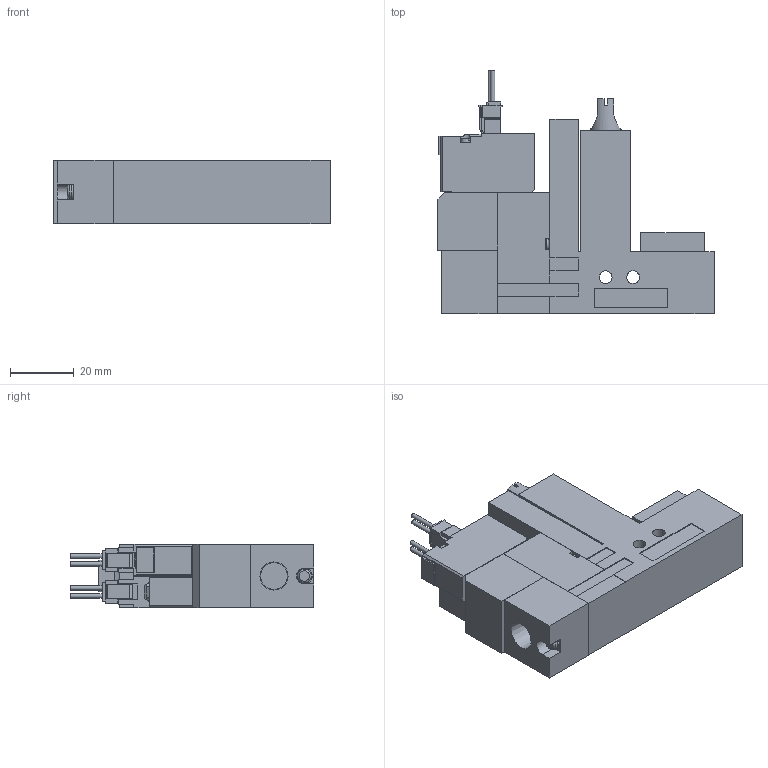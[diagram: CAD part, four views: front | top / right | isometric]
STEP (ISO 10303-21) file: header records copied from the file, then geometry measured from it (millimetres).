
FILE_DESCRIPTION(('STEP AP203'),'1');
FILE_NAME('ZL5ALR.stp','2025-02-16T23:43:21',(' '),(' '),'Spatial InterOp 3D',' ',' ');
FILE_SCHEMA(('CONFIG_CONTROL_DESIGN'));
Length unit declared in the file: millimetre
Products named in the file (5): BMC22S※※※※ZL5ALR; Solenoid valve A; Pressure sensor ZL; Unit L; Base SR10R
Assembly tree (4 placements, depth 2):
  BMC22S※※※※ZL5ALR
    Solenoid valve A
    Pressure sensor ZL
    Unit L
    Base SR10R
Bounding box: 86.6 x 76.45 x 20 mm (x, y, z)
Volume: 77329.4 mm3; surface area: 21650.7 mm2
Topology: 4 solids, 4 shells, 349 faces, 937 edges, 617 vertices
Faces by surface type: plane 304, cylinder 36, cone 6, torus 3
Full cylindrical faces by diameter (mm): 1.4 x4, 2.5 x1, 3 x4, 3.5 x4, 3.6 x1, 4 x2, 4.134 x1, 6 x1
Entity records: 10907 total; most frequent: CARTESIAN_POINT 1964, ORIENTED_EDGE 1806, DIRECTION 1715, EDGE_CURVE 903, LINE 791, VECTOR 791, VERTEX_POINT 611, AXIS2_PLACEMENT_3D 462
